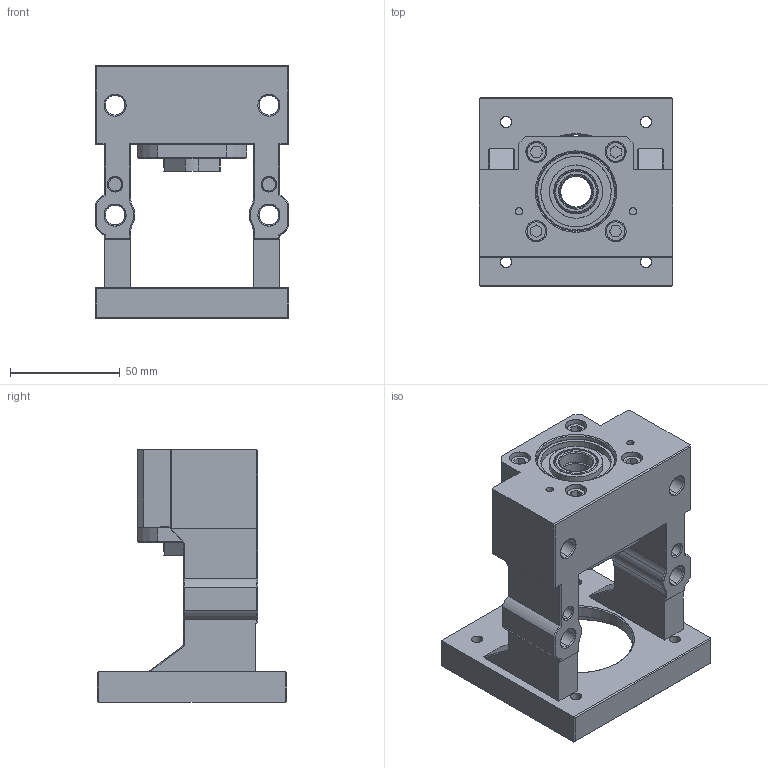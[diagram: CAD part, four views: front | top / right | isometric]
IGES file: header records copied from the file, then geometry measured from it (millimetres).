
Start section: SolidWorks IGES file using analytic representation for surfaces
Bounding box: 88 x 86 x 115 mm (x, y, z)
Surface area: 62326.3 mm2 (no closed solid volume)
Topology: 0 solids, 0 shells, 316 faces, 4295 edges, 4295 vertices
Faces by surface type: revolution 162, bspline 154
